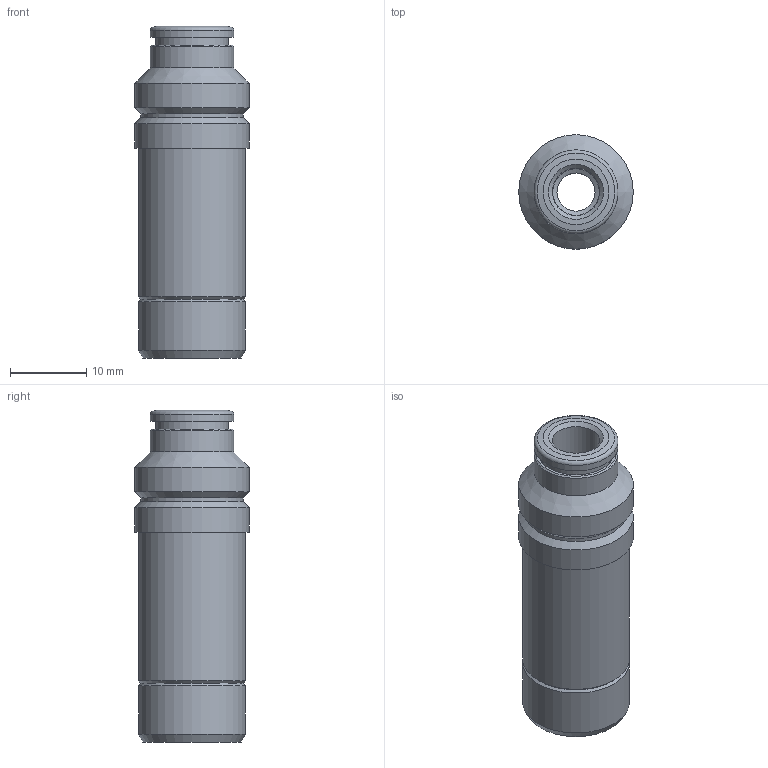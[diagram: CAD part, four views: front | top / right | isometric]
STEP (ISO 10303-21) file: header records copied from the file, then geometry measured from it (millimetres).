
FILE_DESCRIPTION(('Bauteilbeschreibung','HiCAD-Model','HiCAD-STEP-TRANSLATION','Bauteilbeschreibung'),'2;1');
FILE_NAME('B:/ABGLEICH/ZEICHNUNGEN/STEP FÜR INTERNET/STEP/IPSO 08/200813_IPSO_08_14_6.STP','2012-03-14T15:59:08+00:00',('Konstrukteur'),('Konstrukteur Firma GmbH'),' HiCAD neXt 2008, Step 3.1.1401.2J ','HiCAD neXt 2008','confidential');
FILE_SCHEMA(('AUTOMOTIVE_DESIGN { 1 2 10303 214 0 1 1 1 }'));
Length unit declared in the file: millimetre
Products named in the file (3): A00813_IPSO_08_14_6; R200813_N; DR6_1_NEU
Assembly tree (2 placements, depth 2):
  A00813_IPSO_08_14_6
    R200813_N
    DR6_1_NEU
Bounding box: 15 x 15 x 43.5 mm (x, y, z)
Volume: 5230.4 mm3; surface area: 3388.5 mm2
Topology: 2 solids, 2 shells, 37 faces, 69 edges, 39 vertices
Faces by surface type: cone 15, cylinder 14, plane 7, torus 1
Full cylindrical faces by diameter (mm): 5 x1, 6.1 x1, 6.2 x1, 8.3 x1, 9 x1, 9.5 x1, 9.6 x1, 11 x2, 13.4 x1, 14 x2, 15 x2
Entity records: 1013 total; most frequent: DIRECTION 156, CARTESIAN_POINT 115, AXIS2_PLACEMENT_3D 78, EDGE_LOOP 74, ORIENTED_EDGE 74, COLOUR_RGB 39, PRESENTATION_STYLE_ASSIGNMENT 39, ADVANCED_FACE 37
